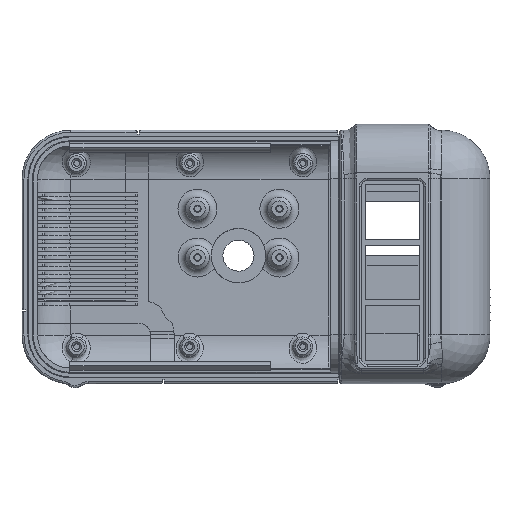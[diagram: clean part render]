
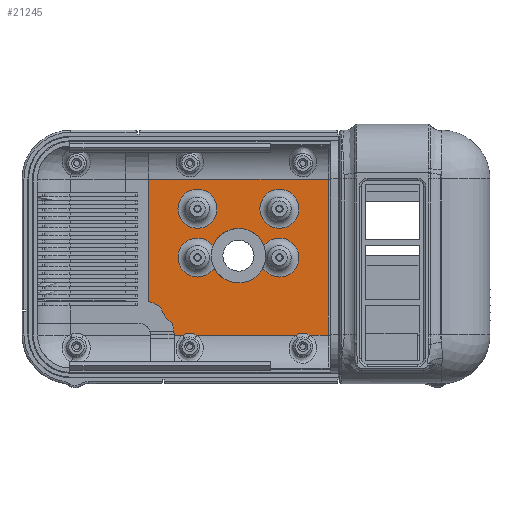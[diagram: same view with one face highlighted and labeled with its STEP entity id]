
A CAD part, top view. The second image highlights one B-rep face of the part: STEP entity #21245.
In plain terms, the highlighted planar face has unit normal (0, 0, 1).
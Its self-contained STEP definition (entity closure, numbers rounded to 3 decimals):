
#673=FACE_BOUND('',#3011,.T.);
#674=FACE_BOUND('',#3012,.T.);
#675=FACE_BOUND('',#3013,.T.);
#877=PLANE('',#22810);
#1713=FACE_OUTER_BOUND('',#3010,.T.);
#3010=EDGE_LOOP('',(#15805,#15806,#15807,#15808,#15809,#15810,#15811,#15812,
#15813,#15814,#15815));
#3011=EDGE_LOOP('',(#15816));
#3012=EDGE_LOOP('',(#15817,#15818,#15819,#15820,#15821));
#3013=EDGE_LOOP('',(#15822));
#4272=LINE('',#34463,#6069);
#4273=LINE('',#34464,#6070);
#4274=LINE('',#34466,#6071);
#4499=LINE('',#37925,#6296);
#4500=LINE('',#37928,#6297);
#4501=LINE('',#37930,#6298);
#6069=VECTOR('',#25931,10.);
#6070=VECTOR('',#25932,10.);
#6071=VECTOR('',#25933,10.);
#6296=VECTOR('',#26420,10.);
#6297=VECTOR('',#26425,10.);
#6298=VECTOR('',#26426,10.);
#7747=CIRCLE('',#22640,5.);
#7749=CIRCLE('',#22643,7.);
#7750=CIRCLE('',#22645,5.);
#7752=CIRCLE('',#22648,7.);
#7753=CIRCLE('',#22650,5.);
#7755=CIRCLE('',#22652,5.);
#7756=CIRCLE('',#22654,5.);
#7758=CIRCLE('',#22657,3.5);
#7759=CIRCLE('',#22659,3.5);
#7832=CIRCLE('',#22811,9.);
#7833=CIRCLE('',#22812,7.126);
#7834=CIRCLE('',#22813,9.);
#9007=VERTEX_POINT('',#33038);
#9008=VERTEX_POINT('',#33040);
#9009=VERTEX_POINT('',#33287);
#9010=VERTEX_POINT('',#33289);
#9069=VERTEX_POINT('',#34336);
#9070=VERTEX_POINT('',#34340);
#9071=VERTEX_POINT('',#34347);
#9072=VERTEX_POINT('',#34358);
#9073=VERTEX_POINT('',#34370);
#9074=VERTEX_POINT('',#34381);
#9075=VERTEX_POINT('',#34386);
#9093=VERTEX_POINT('',#34461);
#9094=VERTEX_POINT('',#34465);
#9380=VERTEX_POINT('',#37922);
#9381=VERTEX_POINT('',#37924);
#9382=VERTEX_POINT('',#37929);
#9383=VERTEX_POINT('',#37931);
#9384=VERTEX_POINT('',#37933);
#11333=EDGE_CURVE('',#9069,#9069,#7747,.T.);
#11336=EDGE_CURVE('',#9071,#9070,#7749,.T.);
#11338=EDGE_CURVE('',#9071,#9072,#7750,.T.);
#11342=EDGE_CURVE('',#9073,#9072,#7752,.T.);
#11343=EDGE_CURVE('',#9073,#9074,#7753,.T.);
#11345=EDGE_CURVE('',#9074,#9070,#7755,.T.);
#11346=EDGE_CURVE('',#9075,#9075,#7756,.T.);
#11348=EDGE_CURVE('',#9009,#9010,#7758,.T.);
#11349=EDGE_CURVE('',#9007,#9008,#7759,.T.);
#11372=EDGE_CURVE('',#9009,#9093,#4272,.T.);
#11373=EDGE_CURVE('',#9007,#9010,#4273,.T.);
#11374=EDGE_CURVE('',#9094,#9008,#4274,.T.);
#11745=EDGE_CURVE('',#9381,#9380,#4499,.T.);
#11747=EDGE_CURVE('',#9381,#9093,#4500,.T.);
#11748=EDGE_CURVE('',#9380,#9382,#4501,.F.);
#11749=EDGE_CURVE('',#9383,#9382,#7832,.T.);
#11750=EDGE_CURVE('',#9384,#9383,#7833,.T.);
#11751=EDGE_CURVE('',#9094,#9384,#7834,.T.);
#15805=ORIENTED_EDGE('',*,*,#11349,.F.);
#15806=ORIENTED_EDGE('',*,*,#11373,.T.);
#15807=ORIENTED_EDGE('',*,*,#11348,.F.);
#15808=ORIENTED_EDGE('',*,*,#11372,.T.);
#15809=ORIENTED_EDGE('',*,*,#11747,.F.);
#15810=ORIENTED_EDGE('',*,*,#11745,.T.);
#15811=ORIENTED_EDGE('',*,*,#11748,.T.);
#15812=ORIENTED_EDGE('',*,*,#11749,.F.);
#15813=ORIENTED_EDGE('',*,*,#11750,.F.);
#15814=ORIENTED_EDGE('',*,*,#11751,.F.);
#15815=ORIENTED_EDGE('',*,*,#11374,.T.);
#15816=ORIENTED_EDGE('',*,*,#11346,.F.);
#15817=ORIENTED_EDGE('',*,*,#11343,.F.);
#15818=ORIENTED_EDGE('',*,*,#11342,.T.);
#15819=ORIENTED_EDGE('',*,*,#11338,.F.);
#15820=ORIENTED_EDGE('',*,*,#11336,.T.);
#15821=ORIENTED_EDGE('',*,*,#11345,.F.);
#15822=ORIENTED_EDGE('',*,*,#11333,.F.);
#21245=ADVANCED_FACE('',(#1713,#673,#674,#675),#877,.F.);
#22640=AXIS2_PLACEMENT_3D('',#34337,#25845,#25846);
#22643=AXIS2_PLACEMENT_3D('',#34348,#25851,#25852);
#22645=AXIS2_PLACEMENT_3D('',#34359,#25855,#25856);
#22648=AXIS2_PLACEMENT_3D('',#34379,#25861,#25862);
#22650=AXIS2_PLACEMENT_3D('',#34382,#25865,#25866);
#22652=AXIS2_PLACEMENT_3D('',#34384,#25869,#25870);
#22654=AXIS2_PLACEMENT_3D('',#34387,#25873,#25874);
#22657=AXIS2_PLACEMENT_3D('',#34390,#25879,#25880);
#22659=AXIS2_PLACEMENT_3D('',#34392,#25883,#25884);
#22810=AXIS2_PLACEMENT_3D('',#37927,#26423,#26424);
#22811=AXIS2_PLACEMENT_3D('',#37932,#26427,#26428);
#22812=AXIS2_PLACEMENT_3D('',#37934,#26429,#26430);
#22813=AXIS2_PLACEMENT_3D('',#37935,#26431,#26432);
#25845=DIRECTION('center_axis',(0.,0.,1.));
#25846=DIRECTION('ref_axis',(1.,0.,0.));
#25851=DIRECTION('center_axis',(0.,0.,-1.));
#25852=DIRECTION('ref_axis',(0.979,0.202,0.));
#25855=DIRECTION('center_axis',(0.,0.,1.));
#25856=DIRECTION('ref_axis',(1.,0.,0.));
#25861=DIRECTION('center_axis',(0.,0.,-1.));
#25862=DIRECTION('ref_axis',(-0.98,-0.2,0.));
#25865=DIRECTION('center_axis',(0.,0.,1.));
#25866=DIRECTION('ref_axis',(1.,0.,0.));
#25869=DIRECTION('center_axis',(0.,0.,1.));
#25870=DIRECTION('ref_axis',(1.,0.,0.));
#25873=DIRECTION('center_axis',(0.,0.,1.));
#25874=DIRECTION('ref_axis',(1.,0.,0.));
#25879=DIRECTION('center_axis',(0.,0.,1.));
#25880=DIRECTION('ref_axis',(-0.515,0.857,0.));
#25883=DIRECTION('center_axis',(0.,0.,1.));
#25884=DIRECTION('ref_axis',(-0.515,0.857,0.));
#25931=DIRECTION('',(1.,0.,0.));
#25932=DIRECTION('',(1.,0.,0.));
#25933=DIRECTION('',(1.,0.,0.));
#26420=DIRECTION('',(-1.,0.,0.));
#26423=DIRECTION('center_axis',(0.,0.,-1.));
#26424=DIRECTION('ref_axis',(-1.,0.,0.));
#26425=DIRECTION('',(0.,-1.,0.));
#26426=DIRECTION('',(0.,1.,0.));
#26427=DIRECTION('center_axis',(0.,0.,1.));
#26428=DIRECTION('ref_axis',(0.,1.,0.));
#26429=DIRECTION('center_axis',(0.,0.,-1.));
#26430=DIRECTION('ref_axis',(0.,-1.,0.));
#26431=DIRECTION('center_axis',(0.,0.,1.));
#26432=DIRECTION('ref_axis',(0.,1.,0.));
#33038=CARTESIAN_POINT('',(15.803,12.5,-17.5));
#33040=CARTESIAN_POINT('',(12.197,12.5,-17.5));
#33287=CARTESIAN_POINT('',(44.803,12.5,-17.5));
#33289=CARTESIAN_POINT('',(41.197,12.5,-17.5));
#34336=CARTESIAN_POINT('',(21.,44.9,-17.5));
#34337=CARTESIAN_POINT('Origin',(16.,44.9,-17.5));
#34340=CARTESIAN_POINT('',(33.019,35.425,-17.5));
#34347=CARTESIAN_POINT('',(19.994,35.408,-17.5));
#34348=CARTESIAN_POINT('Origin',(26.51,32.85,-17.5));
#34358=CARTESIAN_POINT('',(20.245,29.758,-17.5));
#34359=CARTESIAN_POINT('Origin',(16.,32.4,-17.5));
#34370=CARTESIAN_POINT('',(32.755,29.758,-17.5));
#34379=CARTESIAN_POINT('Origin',(26.5,32.9,-17.5));
#34381=CARTESIAN_POINT('',(42.,32.4,-17.5));
#34382=CARTESIAN_POINT('Origin',(37.,32.4,-17.5));
#34384=CARTESIAN_POINT('Origin',(37.,32.4,-17.5));
#34386=CARTESIAN_POINT('',(42.,44.9,-17.5));
#34387=CARTESIAN_POINT('Origin',(37.,44.9,-17.5));
#34390=CARTESIAN_POINT('Origin',(43.,9.5,-17.5));
#34392=CARTESIAN_POINT('Origin',(14.,9.5,-17.5));
#34461=CARTESIAN_POINT('',(49.5,12.5,-17.5));
#34463=CARTESIAN_POINT('',(59.75,12.5,-17.5));
#34464=CARTESIAN_POINT('',(59.75,12.5,-17.5));
#34465=CARTESIAN_POINT('',(10.,12.5,-17.5));
#34466=CARTESIAN_POINT('',(59.75,12.5,-17.5));
#37922=CARTESIAN_POINT('',(3.5,52.5,-17.5));
#37924=CARTESIAN_POINT('',(49.5,52.5,-17.5));
#37925=CARTESIAN_POINT('',(59.75,52.5,-17.5));
#37927=CARTESIAN_POINT('Origin',(91.,0.,-17.5));
#37928=CARTESIAN_POINT('',(49.5,34.,-17.5));
#37929=CARTESIAN_POINT('',(3.5,21.146,-17.5));
#37930=CARTESIAN_POINT('',(3.5,-2.5,-17.5));
#37931=CARTESIAN_POINT('',(6.624,19.526,-17.5));
#37932=CARTESIAN_POINT('Origin',(1.,12.5,-17.5));
#37933=CARTESIAN_POINT('',(9.48,15.516,-17.5));
#37934=CARTESIAN_POINT('Origin',(13.5,21.4,-17.5));
#37935=CARTESIAN_POINT('Origin',(1.,12.5,-17.5));
